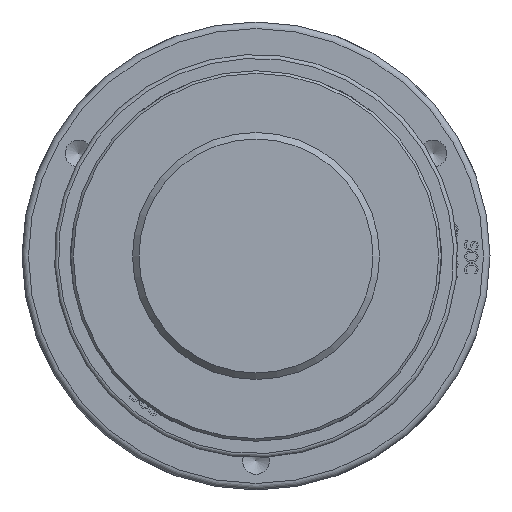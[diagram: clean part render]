
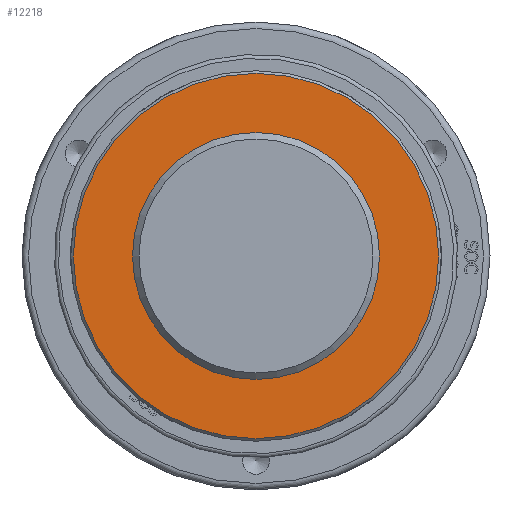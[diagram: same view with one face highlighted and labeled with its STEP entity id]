
A CAD part, front view. The second image highlights one B-rep face of the part: STEP entity #12218.
In plain terms, the highlighted planar face has unit normal (0, -1, 0) as drawn and (0, 1, 0) by its records, which use the part's own axes.
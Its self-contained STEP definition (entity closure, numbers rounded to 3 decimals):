
#90=CIRCLE('',#12879,140.5);
#92=CIRCLE('',#12883,90.67);
#169=FACE_BOUND('',#2141,.T.);
#1410=FACE_OUTER_BOUND('',#2140,.T.);
#2140=EDGE_LOOP('',(#9660));
#2141=EDGE_LOOP('',(#9661));
#5492=VERTEX_POINT('',#18542);
#5506=VERTEX_POINT('',#18782);
#6993=EDGE_CURVE('',#5492,#5492,#90,.T.);
#7007=EDGE_CURVE('',#5506,#5506,#92,.T.);
#9660=ORIENTED_EDGE('',*,*,#6993,.F.);
#9661=ORIENTED_EDGE('',*,*,#7007,.T.);
#11727=PLANE('',#12882);
#12218=ADVANCED_FACE('',(#1410,#169),#11727,.T.);
#12879=AXIS2_PLACEMENT_3D('',#18543,#14154,#14155);
#12882=AXIS2_PLACEMENT_3D('',#18781,#14160,#14161);
#12883=AXIS2_PLACEMENT_3D('',#18783,#14162,#14163);
#14154=DIRECTION('center_axis',(0.,-1.,0.));
#14155=DIRECTION('ref_axis',(1.,0.,0.));
#14160=DIRECTION('center_axis',(0.,1.,0.));
#14161=DIRECTION('ref_axis',(0.,0.,1.));
#14162=DIRECTION('center_axis',(0.,-1.,0.));
#14163=DIRECTION('ref_axis',(1.,0.,0.));
#18542=CARTESIAN_POINT('',(-140.5,92.5,0.));
#18543=CARTESIAN_POINT('Origin',(0.,92.5,0.));
#18781=CARTESIAN_POINT('Origin',(0.,92.5,0.));
#18782=CARTESIAN_POINT('',(-90.67,92.5,0.));
#18783=CARTESIAN_POINT('Origin',(0.,92.5,0.));
